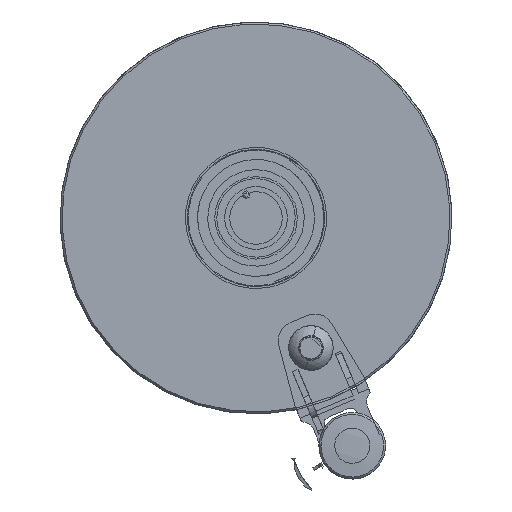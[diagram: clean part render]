
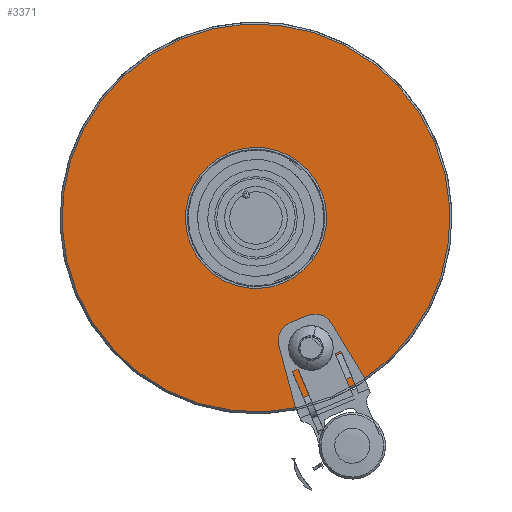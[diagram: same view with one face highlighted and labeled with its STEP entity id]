
A CAD part, front view. The second image highlights one B-rep face of the part: STEP entity #3371.
In plain terms, the highlighted planar face has unit normal (0, -1, 0).
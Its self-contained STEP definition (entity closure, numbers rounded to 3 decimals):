
#28 = VERTEX_POINT ( 'NONE', #1698 ) ;
#98 = VERTEX_POINT ( 'NONE', #1246 ) ;
#307 = DIRECTION ( 'NONE',  ( 0.921, 0., 0.389 ) ) ;
#340 = CARTESIAN_POINT ( 'NONE',  ( 0., -1657.4, 0. ) ) ;
#553 = DIRECTION ( 'NONE',  ( 0.921, 0., 0.389 ) ) ;
#626 = DIRECTION ( 'NONE',  ( 0., 1., 0. ) ) ;
#628 = CARTESIAN_POINT ( 'NONE',  ( 0., -1657.4, 0. ) ) ;
#724 = CARTESIAN_POINT ( 'NONE',  ( 7.006, -1657.4, -16.581 ) ) ;
#769 = CIRCLE ( 'NONE', #3354, 24.75 ) ;
#1186 = DIRECTION ( 'NONE',  ( 0., 1., 0. ) ) ;
#1238 = ORIENTED_EDGE ( 'NONE', *, *, #3905, .T. ) ;
#1246 = CARTESIAN_POINT ( 'NONE',  ( 8.434, -1657.4, -15.977 ) ) ;
#1375 = DIRECTION ( 'NONE',  ( 0., -1., 0. ) ) ;
#1461 = VERTEX_POINT ( 'NONE', #5944 ) ;
#1491 = PLANE ( 'NONE',  #4892 ) ;
#1503 = EDGE_LOOP ( 'NONE', ( #1238, #3614 ) ) ;
#1505 = CIRCLE ( 'NONE', #2437, 1.55 ) ;
#1519 = ORIENTED_EDGE ( 'NONE', *, *, #2038, .T. ) ;
#1587 = AXIS2_PLACEMENT_3D ( 'NONE', #4396, #4426, #553 ) ;
#1698 = CARTESIAN_POINT ( 'NONE',  ( 8.29, -1657.4, 3.503 ) ) ;
#1867 = VERTEX_POINT ( 'NONE', #6272 ) ;
#1974 = FACE_BOUND ( 'NONE', #6228, .T. ) ;
#1985 = VERTEX_POINT ( 'NONE', #5733 ) ;
#2038 = EDGE_CURVE ( 'NONE', #1461, #28, #6198, .T. ) ;
#2306 = CARTESIAN_POINT ( 'NONE',  ( 0., -1657.4, 0. ) ) ;
#2335 = VERTEX_POINT ( 'NONE', #5816 ) ;
#2437 = AXIS2_PLACEMENT_3D ( 'NONE', #724, #1186, #6040 ) ;
#2457 = FACE_OUTER_BOUND ( 'NONE', #1503, .T. ) ;
#2556 = CARTESIAN_POINT ( 'NONE',  ( -4.865, -1657.4, 11.514 ) ) ;
#2980 = EDGE_CURVE ( 'NONE', #28, #1461, #4583, .T. ) ;
#3057 = AXIS2_PLACEMENT_3D ( 'NONE', #5132, #626, #6121 ) ;
#3340 = DIRECTION ( 'NONE',  ( 0.921, 0., 0.389 ) ) ;
#3354 = AXIS2_PLACEMENT_3D ( 'NONE', #628, #5108, #4121 ) ;
#3371 = ADVANCED_FACE ( 'NONE', ( #4997, #2457, #1974 ), #1491, .T. ) ;
#3458 = DIRECTION ( 'NONE',  ( 0.921, 0., 0.389 ) ) ;
#3519 = DIRECTION ( 'NONE',  ( 0., -1., 0. ) ) ;
#3614 = ORIENTED_EDGE ( 'NONE', *, *, #4867, .T. ) ;
#3657 = ORIENTED_EDGE ( 'NONE', *, *, #2980, .T. ) ;
#3814 = EDGE_CURVE ( 'NONE', #98, #2335, #1505, .T. ) ;
#3905 = EDGE_CURVE ( 'NONE', #1985, #1867, #6327, .T. ) ;
#4121 = DIRECTION ( 'NONE',  ( 0.921, 0., 0.389 ) ) ;
#4396 = CARTESIAN_POINT ( 'NONE',  ( 0., -1657.4, 0. ) ) ;
#4426 = DIRECTION ( 'NONE',  ( 0., 1., 0. ) ) ;
#4496 = ORIENTED_EDGE ( 'NONE', *, *, #3814, .T. ) ;
#4507 = CIRCLE ( 'NONE', #3057, 1.55 ) ;
#4583 = CIRCLE ( 'NONE', #4888, 9. ) ;
#4652 = EDGE_LOOP ( 'NONE', ( #4496, #5354 ) ) ;
#4867 = EDGE_CURVE ( 'NONE', #1867, #1985, #769, .T. ) ;
#4888 = AXIS2_PLACEMENT_3D ( 'NONE', #340, #5746, #307 ) ;
#4892 = AXIS2_PLACEMENT_3D ( 'NONE', #2556, #3519, #3458 ) ;
#4997 = FACE_BOUND ( 'NONE', #4652, .T. ) ;
#5108 = DIRECTION ( 'NONE',  ( 0., -1., 0. ) ) ;
#5132 = CARTESIAN_POINT ( 'NONE',  ( 7.006, -1657.4, -16.581 ) ) ;
#5354 = ORIENTED_EDGE ( 'NONE', *, *, #5599, .T. ) ;
#5599 = EDGE_CURVE ( 'NONE', #2335, #98, #4507, .T. ) ;
#5733 = CARTESIAN_POINT ( 'NONE',  ( -22.798, -1657.4, -9.633 ) ) ;
#5746 = DIRECTION ( 'NONE',  ( 0., 1., 0. ) ) ;
#5816 = CARTESIAN_POINT ( 'NONE',  ( 5.578, -1657.4, -17.184 ) ) ;
#5919 = AXIS2_PLACEMENT_3D ( 'NONE', #2306, #1375, #3340 ) ;
#5944 = CARTESIAN_POINT ( 'NONE',  ( -8.29, -1657.4, -3.503 ) ) ;
#6040 = DIRECTION ( 'NONE',  ( 0.921, 0., 0.389 ) ) ;
#6121 = DIRECTION ( 'NONE',  ( 0.921, 0., 0.389 ) ) ;
#6198 = CIRCLE ( 'NONE', #1587, 9. ) ;
#6228 = EDGE_LOOP ( 'NONE', ( #3657, #1519 ) ) ;
#6272 = CARTESIAN_POINT ( 'NONE',  ( 22.798, -1657.4, 9.633 ) ) ;
#6327 = CIRCLE ( 'NONE', #5919, 24.75 ) ;
